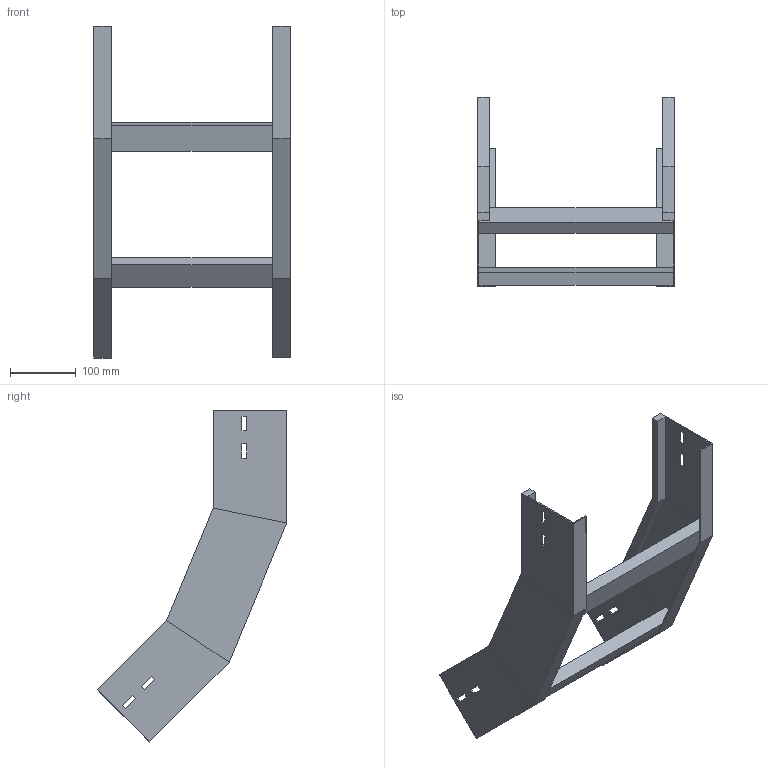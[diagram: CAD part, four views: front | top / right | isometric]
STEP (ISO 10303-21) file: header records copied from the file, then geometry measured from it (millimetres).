
FILE_DESCRIPTION (( 'STEP AP214' ), '1' );
FILE_NAME ('A2X31B3J300XX.step', '2025-03-20T10:06:23', ( '' ), ( '' ), 'SwSTEP 2.0', 'SolidWorks 2023', '' );
FILE_SCHEMA (( 'AUTOMOTIVE_DESIGN' ));
Length unit declared in the file: millimetre
Products named in the file (3): LONGH.SALITA_45°_H112.5_R300; A2X31B3J300XX; TRAVERSINO_300
Assembly tree (4 placements, depth 2):
  A2X31B3J300XX
    LONGH.SALITA_45°_H112.5_R300  x2
    TRAVERSINO_300  x2
Bounding box: 300 x 289.26 x 506.29 mm (x, y, z)
Volume: 960600.5 mm3; surface area: 406355.8 mm2
Topology: 4 solids, 4 shells, 96 faces, 232 edges, 144 vertices
Faces by surface type: plane 96
Entity records: 1472 total; most frequent: CARTESIAN_POINT 243, ORIENTED_EDGE 232, DIRECTION 226, VECTOR 116, LINE 116, EDGE_CURVE 116, VERTEX_POINT 72, EDGE_LOOP 56
